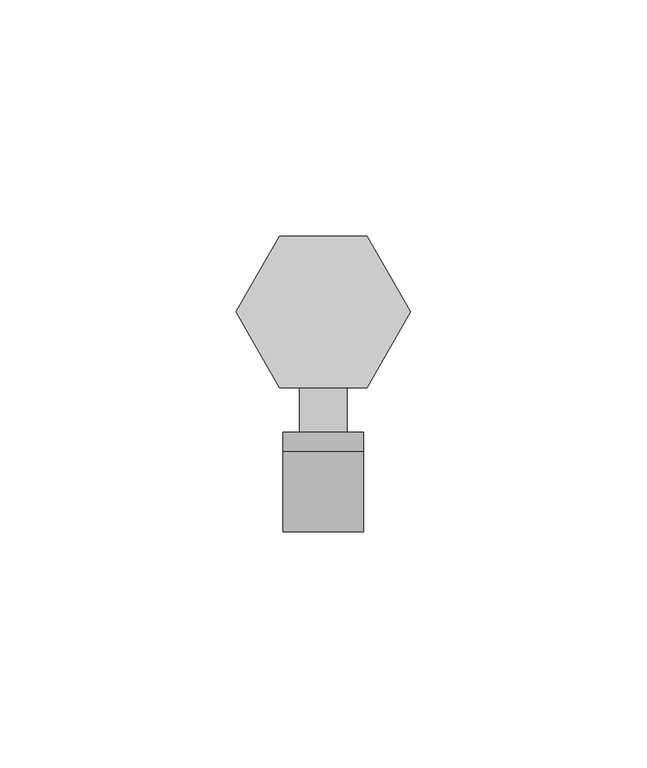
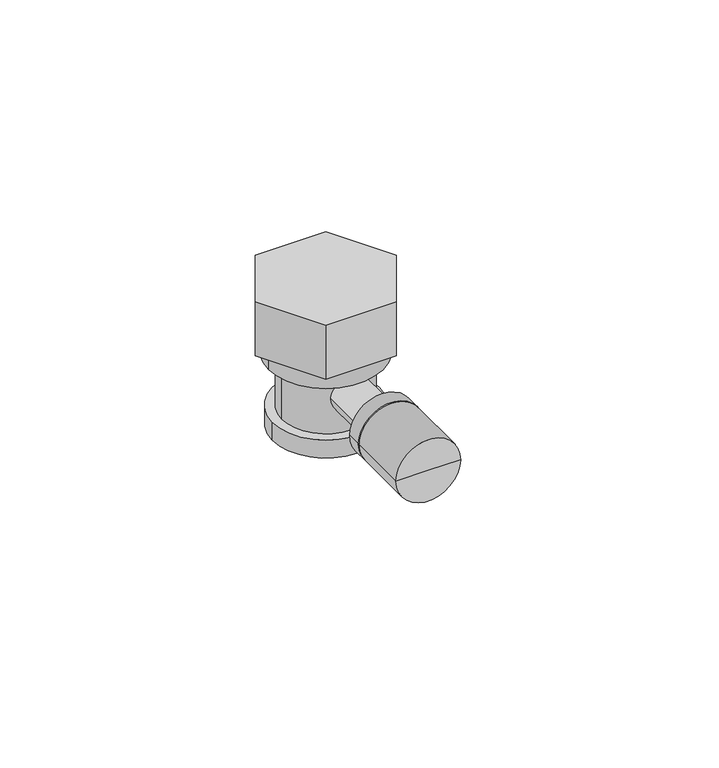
"""IFC4 building model written with IfcOpenShell, lengths in millimetres: pipe fitting geometry, KAN-therm Push podejście do baterii PPSU : KAN-therm Push podejście do baterii PPSU."""

from ifc_helpers import new_model, si_unit, point, frame, origin, origin_2d, place, context, project, spatial, circle_curve, trimmed, segment, composite_curve, outline, extrude, source, transform, mapped, element, save
from ifc_brep_helpers import plane_surface, cylinder_surface, advanced_brep


def pipe_fitting_8f11784b(model_context):
    return source(origin(), model_context, "Body", "SolidModel", [
        advanced_brep(
        [(-8.5, -29.5, 0.0), (8.5, -29.5, 0.0), (0.0, -29.5, 0.0), (-8.5, -25.5, 0.0), (8.5, -25.5, 0.0), (0.0, -25.5, 0.0)],
        [
            (0, 1, circle_curve(frame((0.0, -29.5, 0.0), z_axis=(0.0, -1.0, 0.0), x_axis=(1.0000000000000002, 0.0, 0.0)), 8.5)),
            (1, 2),
            (2, 0),
            (1, 0, circle_curve(frame((0.0, -29.5, 0.0), z_axis=(0.0, -1.0, 0.0), x_axis=(1.0000000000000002, 0.0, 0.0)), 8.5)),
            (3, 4, circle_curve(frame((0.0, -25.5, 0.0), z_axis=(0.0, -1.0, 0.0), x_axis=(1.0000000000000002, 0.0, 0.0)), 8.5)),
            (4, 1),
            (0, 3),
            (4, 3, circle_curve(frame((0.0, -25.5, 0.0), z_axis=(0.0, -1.0, 0.0), x_axis=(1.0000000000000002, 0.0, 0.0)), 8.5)),
            (5, 4),
            (3, 5),
        ],
        [
            plane_surface(frame((0.0, -29.5, 0.0), z_axis=(0.0, -1.0, 0.0), x_axis=(1.0, 0.0, 0.0))),
            cylinder_surface(frame((0.0, -2023.5, 0.0), z_axis=(0.0, 1.0000000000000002, 0.0), x_axis=(1.0000000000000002, 0.0, 0.0)), 8.5),
            plane_surface(frame((0.0, -25.5, 0.0), z_axis=(0.0, 1.0, 0.0), x_axis=(1.0, 0.0, 0.0))),
        ],
        [
            (0, [[1, 2, 3]]),
            (0, [[4, -3, -2]]),
            (1, [[5, 6, -1, 7]]),
            (1, [[8, -7, -4, -6]]),
            (2, [[9, -5, 10]]),
            (2, [[-10, -8, -9]]),
        ],
    ),
        advanced_brep(
        [(-8.5, -46.5, 0.0), (8.5, -46.5, 0.0), (0.0, -46.5, 0.0), (-8.5, -29.5, 0.0), (8.5, -29.5, 0.0), (0.0, -29.5, 0.0)],
        [
            (0, 1, circle_curve(frame((0.0, -46.5, 0.0), z_axis=(0.0, -1.0, 0.0), x_axis=(1.0000000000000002, 0.0, 0.0)), 8.5)),
            (1, 2),
            (2, 0),
            (1, 0, circle_curve(frame((0.0, -46.5, 0.0), z_axis=(0.0, -1.0, 0.0), x_axis=(1.0000000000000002, 0.0, 0.0)), 8.5)),
            (3, 4, circle_curve(frame((0.0, -29.5, 0.0), z_axis=(0.0, -1.0, 0.0), x_axis=(1.0000000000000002, 0.0, 0.0)), 8.5)),
            (4, 1),
            (0, 3),
            (4, 3, circle_curve(frame((0.0, -29.5, 0.0), z_axis=(0.0, -1.0, 0.0), x_axis=(1.0000000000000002, 0.0, 0.0)), 8.5)),
            (5, 4),
            (3, 5),
        ],
        [
            plane_surface(frame((0.0, -46.5, 0.0), z_axis=(0.0, -1.0, 0.0), x_axis=(1.0, 0.0, 0.0))),
            cylinder_surface(frame((0.0, -2023.5, 0.0), z_axis=(0.0, 1.0000000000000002, 0.0), x_axis=(1.0000000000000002, 0.0, 0.0)), 8.5),
            plane_surface(frame((0.0, -29.5, 0.0), z_axis=(0.0, 1.0, 0.0), x_axis=(1.0, 0.0, 0.0))),
        ],
        [
            (0, [[1, 2, 3]]),
            (0, [[4, -3, -2]]),
            (1, [[5, 6, -1, 7]]),
            (1, [[8, -7, -4, -6]]),
            (2, [[9, -5, 10]]),
            (2, [[-10, -8, -9]]),
        ],
    ),
        extrude(outline(composite_curve([segment(trimmed(circle_curve(origin_2d(), 11.5), [point((-11.5, 0.0))], [point((11.5, 0.0))], False, "CARTESIAN"), True, "CONTINUOUS"), segment(trimmed(circle_curve(origin_2d(), 11.5), [point((11.5, 0.0))], [point((-11.5, 0.0))], False, "CARTESIAN"), True, "CONTINUOUS")], self_intersect=False)), frame((0.0, 0.0, -10.0), z_axis=(0.0, 0.0, 1.0), x_axis=(1.0, 0.0, 0.0)), (0.0, 0.0, 1.0), 15.0),
        advanced_brep(
        [(-15.0, 0.0, 5.0), (15.0, 0.0, 5.0), (0.0, -15.0, 5.0), (-15.0, 0.0, 10.0), (15.0, 0.0, 10.0), (-18.4752086, 0.0, 25.0), (-9.2376043, -16.0, 25.0), (9.2376043, -16.0, 25.0), (18.4752086, 0.0, 25.0), (9.2376043, 16.0, 25.0), (-9.2376043, 16.0, 25.0), (-18.4752086, 0.0, 10.0), (-9.2376043, 16.0, 10.0), (9.2376043, 16.0, 10.0), (18.4752086, 0.0, 10.0), (9.2376043, -16.0, 10.0), (-9.2376043, -16.0, 10.0)],
        [
            (0, 1, circle_curve(frame((0.0, 0.0, 5.0), z_axis=(0.0, 0.0, -1.0), x_axis=(1.0, 0.0, 0.0)), 15.0)),
            (1, 2, circle_curve(frame((0.0, 0.0, 5.0), z_axis=(0.0, 0.0, -1.0), x_axis=(1.0, 0.0, 0.0)), 15.0)),
            (2, 0, circle_curve(frame((0.0, 0.0, 5.0), z_axis=(0.0, 0.0, -1.0), x_axis=(1.0, 0.0, 0.0)), 15.0)),
            (3, 0),
            (1, 4),
            (4, 3, circle_curve(frame((0.0, 0.0, 10.0), z_axis=(0.0, 0.0, -1.0), x_axis=(1.0, 0.0, 0.0)), 15.0)),
            (3, 4, circle_curve(frame((0.0, 0.0, 10.0), z_axis=(0.0, 0.0, -1.0), x_axis=(1.0, 0.0, 0.0)), 15.0)),
            (5, 6),
            (6, 7),
            (7, 8),
            (8, 9),
            (9, 10),
            (10, 5),
            (11, 12),
            (12, 13),
            (13, 14),
            (14, 15),
            (15, 16),
            (16, 11),
            (5, 11),
            (16, 6),
            (15, 7),
            (14, 8),
            (13, 9),
            (12, 10),
        ],
        [
            plane_surface(frame((15.0, 0.0, 5.0), z_axis=(0.0, 0.0, -1.0), x_axis=(0.0, -1.0, 0.0))),
            cylinder_surface(frame((0.0, 0.0, 5.0), z_axis=(0.0, 0.0, 1.0), x_axis=(1.0, 0.0, 0.0)), 15.0),
            plane_surface(frame((-18.4752086, 0.0, 25.0), z_axis=(0.0, 0.0, 1.0), x_axis=(0.5000000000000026, -0.8660254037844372, 0.0))),
            plane_surface(frame((-18.4752086, 0.0, 10.0), z_axis=(0.0, 0.0, -1.0), x_axis=(-0.5000000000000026, 0.8660254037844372, 0.0))),
            plane_surface(frame((-18.4752086, 0.0, 25.0), z_axis=(-0.8660254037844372, -0.5000000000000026, 0.0), x_axis=(0.0, 0.0, -1.0))),
            plane_surface(frame((-9.2376043, -16.0, 25.0), z_axis=(0.0, -1.0, 0.0), x_axis=(0.0, 0.0, -1.0))),
            plane_surface(frame((9.2376043, -16.0, 25.0), z_axis=(0.8660254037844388, -0.49999999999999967, 0.0), x_axis=(0.0, 0.0, -1.0))),
            plane_surface(frame((18.4752086, 0.0, 25.0), z_axis=(0.866025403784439, 0.49999999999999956, 0.0), x_axis=(0.0, 0.0, -1.0))),
            plane_surface(frame((9.2376043, 16.0, 25.0), z_axis=(0.0, 1.0, 0.0), x_axis=(0.0, 0.0, -1.0))),
            plane_surface(frame((-9.2376043, 16.0, 25.0), z_axis=(-0.8660254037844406, 0.49999999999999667, 0.0), x_axis=(0.0, 0.0, -1.0))),
        ],
        [
            (0, [[1, 2, 3]]),
            (1, [[4, -3, -2, 5, 6]]),
            (1, [[-1, -4, 7, -5]]),
            (2, [[8, 9, 10, 11, 12, 13]]),
            (3, [[14, 15, 16, 17, 18, 19], [-6, -7]]),
            (4, [[-8, 20, -19, 21]]),
            (5, [[-9, -21, -18, 22]]),
            (6, [[-10, -22, -17, 23]]),
            (7, [[-11, -23, -16, 24]]),
            (8, [[-12, -24, -15, 25]]),
            (9, [[-13, -25, -14, -20]]),
        ],
    ),
        advanced_brep(
        [(-5.0, -29.5, 0.0), (5.0, -29.5, 0.0), (5.0, 0.0, 0.0), (-5.0, 0.0, 0.0), (0.0, 0.0, 5.0)],
        [
            (0, 1, circle_curve(frame((0.0, -29.5, 0.0), z_axis=(0.0, -1.0, 0.0), x_axis=(1.0, 0.0, 0.0)), 5.0)),
            (1, 0, circle_curve(frame((0.0, -29.5, 0.0), z_axis=(0.0, -1.0, 0.0), x_axis=(1.0, 0.0, 0.0)), 5.0)),
            (2, 3, circle_curve(frame((0.0, 0.0, 0.0), z_axis=(0.0, 1.0, 0.0), x_axis=(1.0, 0.0, 0.0)), 5.0)),
            (3, 4, circle_curve(frame((0.0, 0.0, 0.0), z_axis=(0.0, 1.0, 0.0), x_axis=(1.0, 0.0, 0.0)), 5.0)),
            (4, 2, circle_curve(frame((0.0, 0.0, 0.0), z_axis=(0.0, 1.0, 0.0), x_axis=(1.0, 0.0, 0.0)), 5.0)),
            (0, 3),
            (2, 1),
        ],
        [
            plane_surface(frame((5.0, -29.5, 0.0), z_axis=(0.0, -1.0, 0.0), x_axis=(0.0, 0.0, 1.0))),
            plane_surface(frame((5.0, 0.0, 0.0), z_axis=(0.0, 1.0, 0.0), x_axis=(0.0, 0.0, -1.0))),
            cylinder_surface(frame((0.0, 0.0, 0.0), z_axis=(0.0, -1.0, 0.0), x_axis=(1.0, 0.0, 0.0)), 5.0),
        ],
        [
            (0, [[1, 2]]),
            (1, [[3, 4, 5]]),
            (2, [[-1, 6, -3, 7]]),
            (2, [[-2, -7, -5, -4, -6]]),
        ],
    ),
        advanced_brep(
        [(-14.0, 0.0, -15.0), (14.0, 0.0, -15.0), (-14.0, 0.0, -10.0), (14.0, 0.0, -10.0)],
        [
            (0, 1, circle_curve(frame((0.0, 0.0, -15.0), z_axis=(0.0, 0.0, -1.0), x_axis=(1.0, 0.0, 0.0)), 14.0)),
            (1, 0, circle_curve(frame((0.0, 0.0, -15.0), z_axis=(0.0, 0.0, -1.0), x_axis=(1.0, 0.0, 0.0)), 14.0)),
            (2, 3, circle_curve(frame((0.0, 0.0, -10.0), z_axis=(0.0, 0.0, 1.0), x_axis=(1.0, 0.0, 0.0)), 14.0)),
            (3, 2, circle_curve(frame((0.0, 0.0, -10.0), z_axis=(0.0, 0.0, 1.0), x_axis=(1.0, 0.0, 0.0)), 14.0)),
            (1, 3),
            (2, 0),
        ],
        [
            plane_surface(frame((14.0, 0.0, -15.0), z_axis=(0.0, 0.0, -1.0), x_axis=(0.0, -1.0, 0.0))),
            plane_surface(frame((14.0, 0.0, -10.0), z_axis=(0.0, 0.0, 1.0), x_axis=(0.0, 1.0, 0.0))),
            cylinder_surface(frame((0.0, 0.0, -15.0), z_axis=(0.0, 0.0, 1.0), x_axis=(1.0, 0.0, 0.0)), 14.0),
        ],
        [
            (0, [[1, 2]]),
            (1, [[3, 4]]),
            (2, [[-2, 5, -3, 6]]),
            (2, [[-1, -6, -4, -5]]),
        ],
    ),
    ])


if __name__ == "__main__":
    model = new_model("IFC4")
    model_context = context("Model", 3, world=origin())
    ifc_project = project(units=[si_unit("LENGTHUNIT", "METRE", prefix="MILLI")], contexts=[model_context])
    site = spatial("IfcSite", under=ifc_project)
    building = spatial("IfcBuilding", under=site)
    placement = place(None, origin())
    pipe_fitting_shape = pipe_fitting_8f11784b(model_context)
    element("IfcPipeFitting", 1, ObjectType="KAN-therm Push podejście do baterii PPSU : KAN-therm Push podejście do baterii PPSU", at=placement, inside=building, context=model_context, shape_type="MappedRepresentation", body=[
        mapped(pipe_fitting_shape, transform((0.0, 0.0, 0.0), x_axis=(1.0, 0.0, 0.0), y_axis=(0.0, 1.0, 0.0), z_axis=(0.0, 0.0, 1.0))),
    ])
    save(model, "model.ifc")
